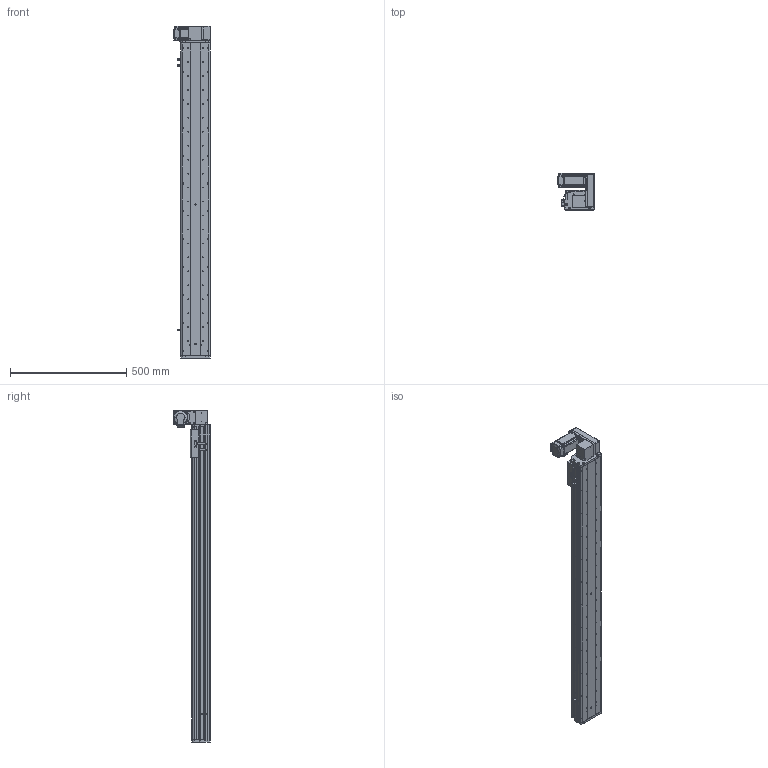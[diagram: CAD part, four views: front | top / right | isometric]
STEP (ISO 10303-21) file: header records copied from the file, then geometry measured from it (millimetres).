
FILE_DESCRIPTION (( 'STEP AP214' ), '1' );
FILE_NAME ('KSD125B-S1150-MLU-CM.STEP', '2017-10-21T03:32:21', ( '微软用户' ), ( '微软中国' ), 'SwSTEP 2.0', 'SolidWorks 2014', '' );
FILE_SCHEMA (( 'AUTOMOTIVE_DESIGN' ));
Length unit declared in the file: millimetre
Products named in the file (17): 125模组1150行程同步带-底板; MHMD042G1CA_2_03; KSD125模组同步带-防撞垫2; 覜茼え68遵圉猾敕; U倰嫖萇假蚾璃; U倰嫖萇EEㄜSX672; KSD125模组同步带-防撞垫1; 前端板-125宽模组同步带; 125模组同步带-尾端板1; KSD125模组同步带-滑动座1; KSD125B-S1150-MLU-CM; 悵誘欶奻狟殏; 100宽马达安装板连板上下折丝杆同步带; HTPA30S3M150_A_H6_a佪裝蚚; HTPA30S3M150_A_H6_a萇儂蚚; 100宽马达安装板同步带左; KSD125模组1150行程同步带-防尘盖
Assembly tree (20 placements, depth 2):
  KSD125B-S1150-MLU-CM
    KSD125模组同步带-滑动座1
    125模组同步带-尾端板1
    前端板-125宽模组同步带
    KSD125模组同步带-防撞垫1
    U倰嫖萇EEㄜSX672  x3
    U倰嫖萇假蚾璃  x3
    覜茼え68遵圉猾敕
    KSD125模组同步带-防撞垫2
    MHMD042G1CA_2_03
    125模组1150行程同步带-底板
    KSD125模组1150行程同步带-防尘盖
    100宽马达安装板同步带左
    HTPA30S3M150_A_H6_a萇儂蚚
    HTPA30S3M150_A_H6_a佪裝蚚
    100宽马达安装板连板上下折丝杆同步带
    悵誘欶奻狟殏
Bounding box: 155 x 157.5 x 1427 mm (x, y, z)
Volume: 4324261 mm3; surface area: 1447773.7 mm2
Topology: 19 solids, 22 shells, 2343 faces, 6793 edges, 4490 vertices
Faces by surface type: cylinder 1484, plane 732, cone 105, bspline 22
Entity records: 83651 total; most frequent: CARTESIAN_POINT 16491, DIRECTION 12998, ORIENTED_EDGE 12106, EDGE_CURVE 6131, AXIS2_PLACEMENT_3D 5037, VERTEX_POINT 4082, VECTOR 2924, LINE 2924
